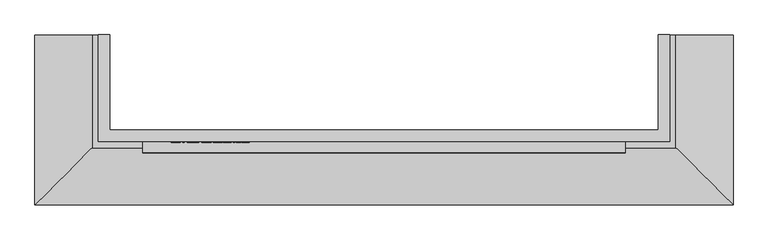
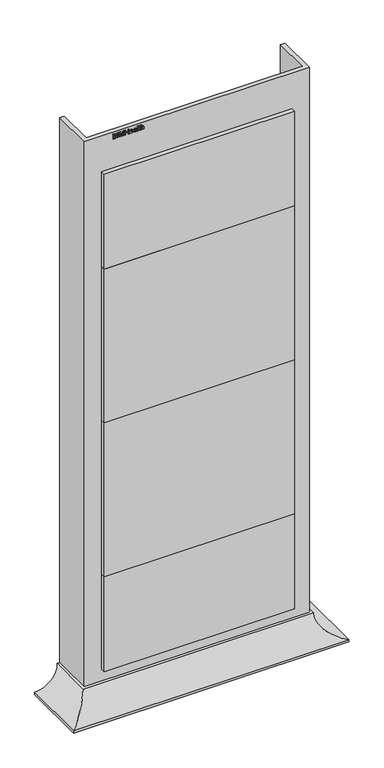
"""IFC4 building model written with IfcOpenShell, lengths in millimetres: furniture geometry, BIMHealth-Washstation-LOD2A-v1 : BIMHealth-Washstation-LOD2A-v1."""

from ifc_helpers import new_model, si_unit, frame, origin, origin_with_axes, place, context, project, spatial, polyline, circle_curve, ellipse_curve, outline, extrude, source, transform, mapped, element, save
from ifc_brep_helpers import plane_surface, revolved_surface, advanced_brep


def furniture_1db9d432(model_context):
    return source(origin(), model_context, "Body", "SolidModel", [
        advanced_brep(
        [(-900.0, 0.0, 100.0), (-900.0, 0.0, 0.0), (-1000.0, 0.0, 0.0), (-1000.0, 0.0, 10.0), (-910.0, 0.0, 100.0), (-900.0, -168.0, 100.0), (-900.0, -168.0, 0.0), (0.0, -168.0, 0.0), (0.0, 0.0, 0.0), (100.0, 0.0, 0.0), (100.0, -268.0, 0.0), (-1000.0, -268.0, 0.0), (-1000.0, -268.0, 10.0), (-910.0, -178.0, 100.0), (10.0, -178.0, 100.0), (10.0, 0.0, 100.0), (0.0, 0.0, 100.0), (0.0, -168.0, 100.0), (100.0, -268.0, 10.0), (100.0, 0.0, 10.0)],
        [
            (0, 1),
            (1, 2),
            (2, 3),
            (3, 4, circle_curve(frame((-1000.0, 0.0, 100.0), z_axis=(0.0, -1.0, 0.0), x_axis=(-1.0, 0.0, 0.0)), 90.0)),
            (4, 0),
            (0, 5),
            (5, 6),
            (6, 1),
            (6, 7),
            (7, 8),
            (8, 9),
            (9, 10),
            (10, 11),
            (11, 2),
            (11, 12),
            (12, 3),
            (12, 13, ellipse_curve(frame((-1000.0, -268.0, 100.0), z_axis=(0.7071067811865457, -0.7071067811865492, 0.0), x_axis=(-0.7071067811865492, -0.7071067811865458, 0.0)), 127.2792206, 90.0)),
            (13, 4),
            (13, 14),
            (14, 15),
            (15, 16),
            (16, 17),
            (17, 5),
            (17, 7),
            (10, 18),
            (18, 12),
            (18, 14, ellipse_curve(frame((100.0, -268.0, 100.0), z_axis=(0.7071067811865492, 0.7071067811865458, 0.0), x_axis=(0.7071067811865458, -0.7071067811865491, 0.0)), 127.2792206, 90.0)),
            (15, 19, circle_curve(frame((100.0, 0.0, 100.0), z_axis=(0.0, -1.0, 0.0), x_axis=(1.0, 0.0, 0.0)), 90.0)),
            (19, 9),
            (8, 16),
            (19, 18),
        ],
        [
            plane_surface(frame((-900.0, 0.0, 0.0), z_axis=(0.0, 1.0, 0.0), x_axis=(0.0, 0.0, 1.0))),
            plane_surface(frame((-900.0, 0.0, 100.0), z_axis=(1.0, 0.0, 0.0), x_axis=(0.0, -1.0, 0.0))),
            plane_surface(frame((-900.0, 0.0, 0.0), z_axis=(0.0, 0.0, -1.0), x_axis=(0.0, -1.0, 0.0))),
            plane_surface(frame((-1000.0, 0.0, 0.0), z_axis=(-1.0, 0.0, 0.0), x_axis=(0.0, -1.0, 0.0))),
            revolved_surface(polyline([(-1090.0, -357.9999999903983, 100.0), (-1090.0, 0.0, 100.0)]), (-1000.0, 0.0, 100.0), (0.0, -1.0, 0.0)),
            plane_surface(frame((-910.0, 0.0, 100.0), z_axis=(0.0, 0.0, 1.0), x_axis=(0.0, -1.0, 0.0))),
            plane_surface(frame((-900.0, -168.0, 100.0), z_axis=(0.0, 1.0, 0.0), x_axis=(1.0, 0.0, 0.0))),
            plane_surface(frame((-1000.0, -268.0, 0.0), z_axis=(0.0, -1.0, 0.0), x_axis=(1.0, 0.0, 0.0))),
            revolved_surface(polyline([(189.99999999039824, -358.0, 100.0), (-1089.9999999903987, -358.0, 100.0)]), (-900.0, -268.0, 100.0), (1.0, 0.0, 0.0)),
            plane_surface(frame((0.0, 0.0, 0.0), z_axis=(0.0, 1.0, 0.0), x_axis=(0.0, 0.0, 1.0))),
            plane_surface(frame((0.0, -168.0, 100.0), z_axis=(-1.0, 0.0, 0.0), x_axis=(0.0, 1.0, 0.0))),
            plane_surface(frame((100.0, -268.0, 0.0), z_axis=(1.0, 0.0, 0.0), x_axis=(0.0, 1.0, 0.0))),
            revolved_surface(polyline([(190.0, 0.0, 100.0), (190.0, -357.9999999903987, 100.0)]), (100.0, -168.0, 100.0), (0.0, 1.0, 0.0)),
        ],
        [
            (0, [[1, 2, 3, 4, 5]]),
            (1, [[-1, 6, 7, 8]]),
            (2, [[-2, -8, 9, 10, 11, 12, 13, 14]]),
            (3, [[-3, -14, 15, 16]]),
            (4, [[-4, -16, 17, 18]]),
            (5, [[-5, -18, 19, 20, 21, 22, 23, -6]]),
            (6, [[-7, -23, 24, -9]]),
            (7, [[-15, -13, 25, 26]]),
            (8, [[-17, -26, 27, -19]]),
            (9, [[-21, 28, 29, -11, 30]]),
            (10, [[-24, -22, -30, -10]]),
            (11, [[-25, -12, -29, 31]]),
            (12, [[-27, -31, -28, -20]]),
        ],
    ),
        extrude(outline(polyline([(2373.0972535, -785.4733843), (2373.0972535, -778.0166535), (2373.4361958, -774.8604035), (2374.4361958, -772.7185766), (2376.3208112, -771.2834804), (2378.9674458, -770.7041535), (2382.0299458, -771.5527112), (2383.8664843, -773.978192), (2385.6092727, -771.9805958), (2387.9097535, -771.3195381), (2390.4289843, -772.1055958), (2392.2102343, -774.2786728), (2392.7895612, -777.9589612), (2392.7895612, -785.4733843), (2373.0972535, -785.4733843)]), holes=[polyline([(2384.7895612, -783.0118458), (2390.3280227, -783.0118458), (2390.3280227, -778.8579997), (2390.0708112, -775.6945381), (2389.121292, -774.2762689), (2387.5155227, -773.7810766), (2385.9121574, -774.3123266), (2385.0010997, -775.8916535), (2384.7895612, -778.5166535), (2384.7895612, -783.0118458)]), polyline([(2375.558792, -783.0118458), (2382.3280227, -783.0118458), (2382.3280227, -778.2041535), (2381.9986958, -775.1632881), (2380.8568689, -773.6368458), (2378.9434074, -773.165692), (2376.1910035, -774.5911728), (2375.6549458, -776.1368458), (2375.558792, -777.9637689), (2375.558792, -783.0118458)])]), frame((0.0, -170.0, 0.0), z_axis=(0.0, 1.0, 0.0), x_axis=(0.0, 0.0, 1.0)), (0.0, 0.0, 1.0), 2.0),
        extrude(outline(polyline([(-764.5503074, -170.0), (-767.0118458, -170.0), (-767.0118458, -168.0), (-764.5503074, -168.0), (-764.5503074, -170.0)])), frame((0.0, 0.0, 2373.0972535), z_axis=(0.0, 0.0, 1.0), x_axis=(1.0, 0.0, 0.0)), (0.0, 0.0, 1.0), 19.6923077),
        extrude(outline(polyline([(2373.0972535, -759.6272304), (2373.0972535, -757.165692), (2390.3280227, -757.165692), (2373.0972535, -752.2185766), (2373.0972535, -748.8820381), (2390.3280227, -743.9349228), (2373.0972535, -743.9349228), (2373.0972535, -741.4733843), (2392.7895612, -741.4733843), (2392.7895612, -745.7089612), (2379.1501381, -749.6704997), (2376.0107151, -750.5503074), (2378.9097535, -751.3628074), (2392.7895612, -755.3916535), (2392.7895612, -759.6272304), (2373.0972535, -759.6272304)])), frame((0.0, -170.0, 0.0), z_axis=(0.0, 1.0, 0.0), x_axis=(0.0, 0.0, 1.0)), (0.0, 0.0, 1.0), 2.0),
        extrude(outline(polyline([(2373.0972535, -737.165692), (2373.0972535, -734.7041535), (2382.3280227, -734.7041535), (2382.3280227, -724.2426151), (2373.0972535, -724.2426151), (2373.0972535, -721.7810766), (2392.7895612, -721.7810766), (2392.7895612, -724.2426151), (2384.7895612, -724.2426151), (2384.7895612, -734.7041535), (2392.7895612, -734.7041535), (2392.7895612, -737.165692), (2373.0972535, -737.165692)])), frame((0.0, -170.0, 0.0), z_axis=(0.0, 1.0, 0.0), x_axis=(0.0, 0.0, 1.0)), (0.0, 0.0, 1.0), 2.0),
        extrude(outline(polyline([(2377.4049458, -707.6560766), (2375.7655227, -709.2426151), (2375.2510997, -711.6560766), (2376.3616766, -714.8267497), (2379.558792, -716.2426151), (2380.2222535, -705.165692), (2385.8616766, -707.0334804), (2387.8664843, -711.8435766), (2385.8568689, -716.7954997), (2380.2078304, -718.7041535), (2374.7390804, -716.8147304), (2372.7895612, -711.7041535), (2373.9193689, -707.4998266), (2377.0972535, -705.2426151), (2377.4049458, -707.6560766)]), holes=[polyline([(2382.0203304, -716.2426151), (2384.4842727, -714.884442), (2385.4049458, -711.853192), (2384.2510997, -708.6128074), (2382.0203304, -707.6272304), (2382.0203304, -716.2426151)])]), frame((0.0, -170.0, 0.0), z_axis=(0.0, 1.0, 0.0), x_axis=(0.0, 0.0, 1.0)), (0.0, 0.0, 1.0), 2.0),
        extrude(outline(polyline([(2374.9434074, -693.4733843), (2373.0972535, -692.8579997), (2373.0972535, -690.3964612), (2375.1669651, -690.8868458), (2379.4434074, -691.0118458), (2382.5059074, -691.0118458), (2384.6597535, -691.1320381), (2386.3304266, -691.8868458), (2387.4289843, -693.571942), (2387.8664843, -696.5551151), (2387.371292, -699.8027112), (2385.9626381, -701.946942), (2383.558792, -703.0118458), (2383.2510997, -700.5503074), (2384.9313881, -699.3628074), (2385.4049458, -696.8724228), (2384.6934074, -694.1512689), (2382.3280227, -693.4878074), (2381.4818689, -697.7570381), (2381.1116766, -699.8868458), (2380.3039843, -701.6104035), (2378.8905227, -702.8483843), (2376.9434074, -703.3195381), (2373.9578304, -702.071942), (2372.7895612, -698.4974228), (2373.2751381, -695.8604035), (2374.9434074, -693.4733843)]), holes=[polyline([(2379.5179266, -693.4805958), (2377.2655227, -693.8772304), (2375.840042, -695.4829997), (2375.2510997, -697.9733843), (2378.7126381, -699.5623266), (2379.1116766, -697.4445381), (2379.5179266, -693.4805958)])]), frame((0.0, -170.0, 0.0), z_axis=(0.0, 1.0, 0.0), x_axis=(0.0, 0.0, 1.0)), (0.0, 0.0, 1.0), 2.0),
        extrude(outline(polyline([(-685.165692, -170.0), (-687.6272304, -170.0), (-687.6272304, -168.0), (-685.165692, -168.0), (-685.165692, -170.0)])), frame((0.0, 0.0, 2373.0972535), z_axis=(0.0, 0.0, 1.0), x_axis=(1.0, 0.0, 0.0)), (0.0, 0.0, 1.0), 19.6923077),
        extrude(outline(polyline([(2376.1429266, -677.4733843), (2385.0972535, -678.7041535), (2385.0972535, -676.2426151), (2387.558792, -676.2426151), (2387.558792, -678.7041535), (2392.5203304, -678.7041535), (2391.0732151, -681.165692), (2387.558792, -681.165692), (2387.558792, -683.0118458), (2385.0972535, -683.0118458), (2385.0972535, -681.165692), (2377.0635997, -681.165692), (2373.1982151, -679.8387689), (2372.7895612, -677.7762689), (2373.0251381, -675.9349228), (2376.1429266, -677.4733843)])), frame((0.0, -170.0, 0.0), z_axis=(0.0, 1.0, 0.0), x_axis=(0.0, 0.0, 1.0)), (0.0, 0.0, 1.0), 2.0),
        extrude(outline(polyline([(2373.0972535, -673.7810766), (2373.0972535, -671.3195381), (2380.7799458, -671.3195381), (2383.371292, -670.9180958), (2384.8568689, -669.571942), (2385.4049458, -667.5551151), (2384.5924458, -665.3339612), (2381.996292, -664.5503074), (2373.0972535, -664.5503074), (2373.0972535, -662.0887689), (2382.2510997, -662.0887689), (2385.4866766, -662.5935766), (2387.2342727, -664.2714612), (2387.8664843, -667.0358843), (2385.5491766, -671.3195381), (2392.7895612, -671.3195381), (2392.7895612, -673.7810766), (2373.0972535, -673.7810766)])), frame((0.0, -170.0, 0.0), z_axis=(0.0, 1.0, 0.0), x_axis=(0.0, 0.0, 1.0)), (0.0, 0.0, 1.0), 2.0),
        extrude(outline(polyline([(-70.0, -168.0), (-70.0, -186.0), (-830.0, -186.0), (-830.0, -168.0), (-70.0, -168.0)])), frame((0.0, 0.0, 1850.0), z_axis=(0.0, 0.0, 1.0), x_axis=(1.0, 0.0, 0.0)), (0.0, 0.0, 1.0), 400.0),
        extrude(outline(polyline([(-70.0, -168.0), (-70.0, -186.0), (-830.0, -186.0), (-830.0, -168.0), (-70.0, -168.0)])), frame((0.0, 0.0, 1200.0), z_axis=(0.0, 0.0, 1.0), x_axis=(1.0, 0.0, 0.0)), (0.0, 0.0, 1.0), 650.0),
        extrude(outline(polyline([(-70.0, -168.0), (-70.0, -186.0), (-830.0, -186.0), (-830.0, -168.0), (-70.0, -168.0)])), frame((0.0, 0.0, 550.0), z_axis=(0.0, 0.0, 1.0), x_axis=(1.0, 0.0, 0.0)), (0.0, 0.0, 1.0), 650.0),
        extrude(outline(polyline([(-70.0, -168.0), (-70.0, -186.0), (-830.0, -186.0), (-830.0, -168.0), (-70.0, -168.0)])), frame((0.0, 0.0, 150.0), z_axis=(0.0, 0.0, 1.0), x_axis=(1.0, 0.0, 0.0)), (0.0, 0.0, 1.0), 400.0),
        extrude(outline(polyline([(-900.0, -168.0), (-900.0, 0.0), (-882.0, 0.0), (-882.0, -150.0), (-18.0, -150.0), (-18.0, 0.0), (0.0, 0.0), (0.0, -168.0), (-900.0, -168.0)])), origin_with_axes(), (0.0, 0.0, 1.0), 2400.0),
    ])


if __name__ == "__main__":
    model = new_model("IFC4")
    model_context = context("Model", 3, world=origin())
    ifc_project = project(units=[si_unit("LENGTHUNIT", "METRE", prefix="MILLI")], contexts=[model_context])
    site = spatial("IfcSite", under=ifc_project)
    building = spatial("IfcBuilding", under=site)
    placement = place(None, origin())
    furniture_shape = furniture_1db9d432(model_context)
    element("IfcFurniture", 1, ObjectType="BIMHealth-Washstation-LOD2A-v1 : BIMHealth-Washstation-LOD2A-v1", at=placement, inside=building, context=model_context, shape_type="MappedRepresentation", body=[
        mapped(furniture_shape, transform((0.0, 0.0, 0.0), x_axis=(1.0, 0.0, 0.0), y_axis=(0.0, 1.0, 0.0), z_axis=(0.0, 0.0, 1.0))),
    ])
    save(model, "model.ifc")
